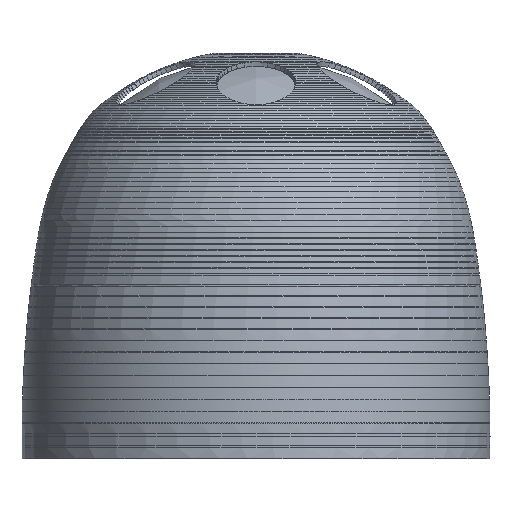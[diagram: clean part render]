
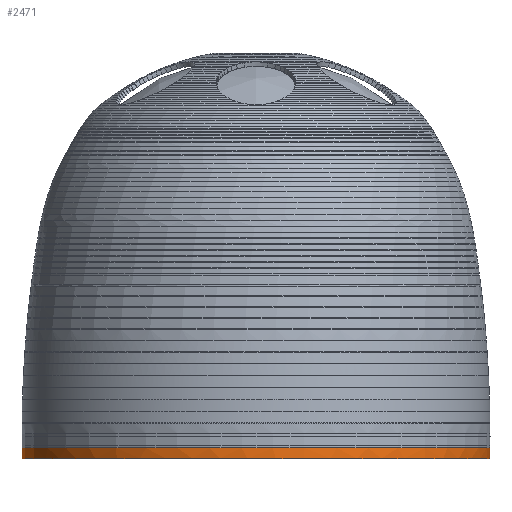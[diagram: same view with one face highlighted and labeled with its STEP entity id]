
A CAD part, front view. The second image highlights one B-rep face of the part: STEP entity #2471.
In plain terms, the highlighted conical face has half-angle 0.5 degrees and reference radius 191.754 mm.
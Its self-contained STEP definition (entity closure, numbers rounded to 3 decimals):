
#545=CONICAL_SURFACE('',#14507,191.754,0.5);
#763=(
BOUNDED_CURVE()
B_SPLINE_CURVE(2,(#34531,#34532,#34533,#34534,#34535,#34536),
 .UNSPECIFIED.,.F.,.F.)
B_SPLINE_CURVE_WITH_KNOTS((3,1,1,1,3),(0.,0.496,0.5,
0.504,1.),.UNSPECIFIED.)
CURVE()
GEOMETRIC_REPRESENTATION_ITEM()
RATIONAL_B_SPLINE_CURVE((1.,0.71,0.998,0.998,
0.71,1.))
REPRESENTATION_ITEM('')
);
#764=(
BOUNDED_CURVE()
B_SPLINE_CURVE(2,(#34539,#34540,#34541,#34542,#34543,#34544),
 .UNSPECIFIED.,.F.,.F.)
B_SPLINE_CURVE_WITH_KNOTS((3,1,1,1,3),(0.,0.496,0.5,
0.504,1.),.UNSPECIFIED.)
CURVE()
GEOMETRIC_REPRESENTATION_ITEM()
RATIONAL_B_SPLINE_CURVE((1.,0.71,0.998,0.998,
0.71,1.))
REPRESENTATION_ITEM('')
);
#1167=FACE_BOUND('',#4676,.T.);
#1168=FACE_BOUND('',#4677,.T.);
#2471=ADVANCED_FACE('',(#1167,#1168),#545,.T.);
#4676=EDGE_LOOP('',(#8931,#8932));
#4677=EDGE_LOOP('',(#8933,#8934));
#8931=ORIENTED_EDGE('',*,*,#12090,.T.);
#8932=ORIENTED_EDGE('',*,*,#12089,.T.);
#8933=ORIENTED_EDGE('',*,*,#12014,.F.);
#8934=ORIENTED_EDGE('',*,*,#12015,.F.);
#10159=VERTEX_POINT('',#34537);
#10160=VERTEX_POINT('',#34538);
#10198=VERTEX_POINT('',#37271);
#10199=VERTEX_POINT('',#37272);
#12014=EDGE_CURVE('',#10159,#10160,#763,.T.);
#12015=EDGE_CURVE('',#10160,#10159,#764,.T.);
#12089=EDGE_CURVE('',#10198,#10199,#13501,.T.);
#12090=EDGE_CURVE('',#10199,#10198,#13502,.T.);
#13501=B_SPLINE_CURVE_WITH_KNOTS('',3,(#37253,#37254,#37255,#37256,#37257,
#37258,#37259,#37260,#37261,#37262,#37263,#37264,#37265,#37266,#37267,#37268,
#37269,#37270),.UNSPECIFIED.,.F.,.F.,(4,2,2,2,2,2,2,2,4),(0.,0.125,0.25,
0.375,0.5,0.625,0.75,0.875,1.),.UNSPECIFIED.);
#13502=B_SPLINE_CURVE_WITH_KNOTS('',3,(#37273,#37274,#37275,#37276,#37277,
#37278,#37279,#37280,#37281,#37282,#37283,#37284,#37285,#37286,#37287,#37288,
#37289,#37290),.UNSPECIFIED.,.F.,.F.,(4,2,2,2,2,2,2,2,4),(0.,0.125,0.25,
0.375,0.5,0.625,0.75,0.875,1.),.UNSPECIFIED.);
#14507=AXIS2_PLACEMENT_3D('',#39561,#16578,#16579);
#16578=DIRECTION('',(0.,0.,1.));
#16579=DIRECTION('',(0.,-1.,0.));
#34531=CARTESIAN_POINT('',(194.831,0.,8.745));
#34532=CARTESIAN_POINT('',(194.831,189.578,8.745));
#34533=CARTESIAN_POINT('',(4.133,191.831,8.745));
#34534=CARTESIAN_POINT('',(1.867,191.831,8.745));
#34535=CARTESIAN_POINT('',(-188.831,189.578,8.745));
#34536=CARTESIAN_POINT('',(-188.831,0.,8.745));
#34537=CARTESIAN_POINT('',(194.831,0.,8.745));
#34538=CARTESIAN_POINT('',(-188.831,0.,8.745));
#34539=CARTESIAN_POINT('',(-188.831,0.,8.745));
#34540=CARTESIAN_POINT('',(-188.831,-189.578,8.745));
#34541=CARTESIAN_POINT('',(1.867,-191.831,8.745));
#34542=CARTESIAN_POINT('',(4.133,-191.831,8.745));
#34543=CARTESIAN_POINT('',(194.831,-189.578,8.745));
#34544=CARTESIAN_POINT('',(194.831,0.,8.745));
#37253=CARTESIAN_POINT('',(194.754,0.,0.));
#37254=CARTESIAN_POINT('',(194.754,25.101,0.));
#37255=CARTESIAN_POINT('',(189.763,50.191,0.));
#37256=CARTESIAN_POINT('',(170.552,96.571,0.));
#37257=CARTESIAN_POINT('',(156.34,117.842,0.));
#37258=CARTESIAN_POINT('',(120.842,153.34,0.));
#37259=CARTESIAN_POINT('',(99.571,167.552,0.));
#37260=CARTESIAN_POINT('',(53.191,186.763,0.));
#37261=CARTESIAN_POINT('',(28.101,191.754,0.));
#37262=CARTESIAN_POINT('',(-22.101,191.754,0.));
#37263=CARTESIAN_POINT('',(-47.191,186.763,0.));
#37264=CARTESIAN_POINT('',(-93.571,167.552,0.));
#37265=CARTESIAN_POINT('',(-114.842,153.34,0.));
#37266=CARTESIAN_POINT('',(-150.34,117.842,0.));
#37267=CARTESIAN_POINT('',(-164.552,96.571,0.));
#37268=CARTESIAN_POINT('',(-183.763,50.191,0.));
#37269=CARTESIAN_POINT('',(-188.754,25.101,0.));
#37270=CARTESIAN_POINT('',(-188.754,0.,0.));
#37271=CARTESIAN_POINT('',(194.754,0.,0.));
#37272=CARTESIAN_POINT('',(-188.754,0.,0.));
#37273=CARTESIAN_POINT('',(-188.754,0.,0.));
#37274=CARTESIAN_POINT('',(-188.754,-25.101,0.));
#37275=CARTESIAN_POINT('',(-183.763,-50.191,0.));
#37276=CARTESIAN_POINT('',(-164.552,-96.571,0.));
#37277=CARTESIAN_POINT('',(-150.34,-117.842,0.));
#37278=CARTESIAN_POINT('',(-114.842,-153.34,0.));
#37279=CARTESIAN_POINT('',(-93.571,-167.552,0.));
#37280=CARTESIAN_POINT('',(-47.191,-186.763,0.));
#37281=CARTESIAN_POINT('',(-22.101,-191.754,0.));
#37282=CARTESIAN_POINT('',(28.101,-191.754,0.));
#37283=CARTESIAN_POINT('',(53.191,-186.763,0.));
#37284=CARTESIAN_POINT('',(99.571,-167.552,0.));
#37285=CARTESIAN_POINT('',(120.842,-153.34,0.));
#37286=CARTESIAN_POINT('',(156.34,-117.842,0.));
#37287=CARTESIAN_POINT('',(170.552,-96.571,0.));
#37288=CARTESIAN_POINT('',(189.763,-50.191,0.));
#37289=CARTESIAN_POINT('',(194.754,-25.101,0.));
#37290=CARTESIAN_POINT('',(194.754,0.,0.));
#39561=CARTESIAN_POINT('',(3.,0.,0.));
